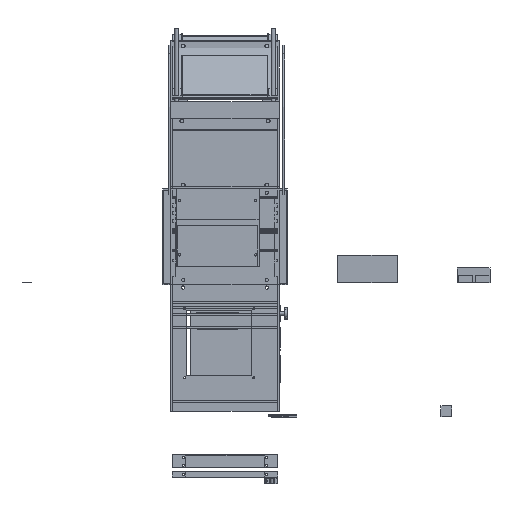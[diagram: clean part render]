
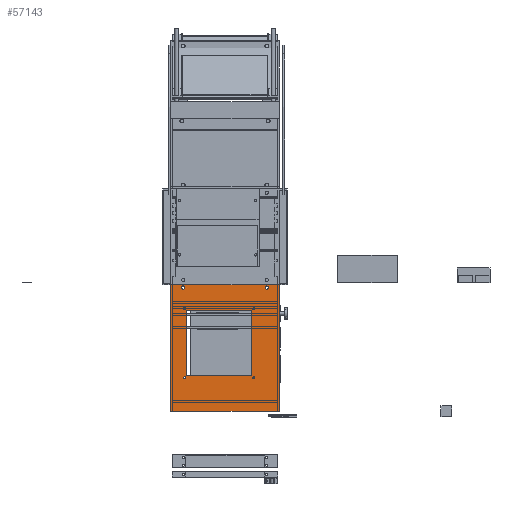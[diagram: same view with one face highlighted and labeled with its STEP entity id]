
A CAD part, left-side view. The second image highlights one B-rep face of the part: STEP entity #57143.
In plain terms, the highlighted planar face has unit normal (-1, 0, 0).
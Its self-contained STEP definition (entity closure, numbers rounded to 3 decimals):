
#56950=CARTESIAN_POINT('',(550.,0.,-236.));
#56951=DIRECTION('',(-1.,0.,0.));
#56952=DIRECTION('',(0.,0.,1.));
#56953=AXIS2_PLACEMENT_3D('',#56950,#56951,#56952);
#56954=PLANE('',#56953);
#56955=CARTESIAN_POINT('',(550.,283.,-12.));
#56956=VERTEX_POINT('',#56955);
#56957=CARTESIAN_POINT('',(550.,283.,-6.));
#56958=VERTEX_POINT('',#56957);
#56959=CARTESIAN_POINT('',(550.,283.,-9.));
#56960=DIRECTION('',(-1.,0.,0.));
#56961=DIRECTION('',(0.,0.,1.));
#56962=AXIS2_PLACEMENT_3D('',#56959,#56960,#56961);
#56963=CIRCLE('',#56962,3.);
#56964=EDGE_CURVE('',#56956,#56958,#56963,.T.);
#56965=ORIENTED_EDGE('',*,*,#56964,.F.);
#56966=CARTESIAN_POINT('',(550.,283.,-9.));
#56967=DIRECTION('',(-1.,0.,0.));
#56968=DIRECTION('',(0.,0.,1.));
#56969=AXIS2_PLACEMENT_3D('',#56966,#56967,#56968);
#56970=CIRCLE('',#56969,3.);
#56971=EDGE_CURVE('',#56958,#56956,#56970,.T.);
#56972=ORIENTED_EDGE('',*,*,#56971,.F.);
#56973=EDGE_LOOP('',(#56965,#56972));
#56974=FACE_BOUND('',#56973,.T.);
#56975=CARTESIAN_POINT('',(550.,130.,-12.));
#56976=VERTEX_POINT('',#56975);
#56977=CARTESIAN_POINT('',(550.,130.,-6.));
#56978=VERTEX_POINT('',#56977);
#56979=CARTESIAN_POINT('',(550.,130.,-9.));
#56980=DIRECTION('',(-1.,0.,0.));
#56981=DIRECTION('',(0.,0.,1.));
#56982=AXIS2_PLACEMENT_3D('',#56979,#56980,#56981);
#56983=CIRCLE('',#56982,3.);
#56984=EDGE_CURVE('',#56976,#56978,#56983,.T.);
#56985=ORIENTED_EDGE('',*,*,#56984,.F.);
#56986=CARTESIAN_POINT('',(550.,130.,-9.));
#56987=DIRECTION('',(-1.,0.,0.));
#56988=DIRECTION('',(0.,0.,1.));
#56989=AXIS2_PLACEMENT_3D('',#56986,#56987,#56988);
#56990=CIRCLE('',#56989,3.);
#56991=EDGE_CURVE('',#56978,#56976,#56990,.T.);
#56992=ORIENTED_EDGE('',*,*,#56991,.F.);
#56993=EDGE_LOOP('',(#56985,#56992));
#56994=FACE_BOUND('',#56993,.T.);
#56995=CARTESIAN_POINT('',(550.,280.536,-176.536));
#56996=VERTEX_POINT('',#56995);
#56997=CARTESIAN_POINT('',(550.,280.536,-172.536));
#56998=VERTEX_POINT('',#56997);
#56999=CARTESIAN_POINT('',(550.,280.536,-174.536));
#57000=DIRECTION('',(-1.,0.,0.));
#57001=DIRECTION('',(0.,0.,1.));
#57002=AXIS2_PLACEMENT_3D('',#56999,#57000,#57001);
#57003=CIRCLE('',#57002,2.);
#57004=EDGE_CURVE('',#56996,#56998,#57003,.T.);
#57005=ORIENTED_EDGE('',*,*,#57004,.F.);
#57006=CARTESIAN_POINT('',(550.,280.536,-174.536));
#57007=DIRECTION('',(-1.,0.,0.));
#57008=DIRECTION('',(0.,0.,1.));
#57009=AXIS2_PLACEMENT_3D('',#57006,#57007,#57008);
#57010=CIRCLE('',#57009,2.);
#57011=EDGE_CURVE('',#56998,#56996,#57010,.T.);
#57012=ORIENTED_EDGE('',*,*,#57011,.F.);
#57013=EDGE_LOOP('',(#57005,#57012));
#57014=FACE_BOUND('',#57013,.T.);
#57015=CARTESIAN_POINT('',(550.,153.464,-49.464));
#57016=VERTEX_POINT('',#57015);
#57017=CARTESIAN_POINT('',(550.,153.464,-45.464));
#57018=VERTEX_POINT('',#57017);
#57019=CARTESIAN_POINT('',(550.,153.464,-47.464));
#57020=DIRECTION('',(-1.,0.,0.));
#57021=DIRECTION('',(0.,0.,1.));
#57022=AXIS2_PLACEMENT_3D('',#57019,#57020,#57021);
#57023=CIRCLE('',#57022,2.);
#57024=EDGE_CURVE('',#57016,#57018,#57023,.T.);
#57025=ORIENTED_EDGE('',*,*,#57024,.F.);
#57026=CARTESIAN_POINT('',(550.,153.464,-47.464));
#57027=DIRECTION('',(-1.,0.,0.));
#57028=DIRECTION('',(0.,0.,1.));
#57029=AXIS2_PLACEMENT_3D('',#57026,#57027,#57028);
#57030=CIRCLE('',#57029,2.);
#57031=EDGE_CURVE('',#57018,#57016,#57030,.T.);
#57032=ORIENTED_EDGE('',*,*,#57031,.F.);
#57033=EDGE_LOOP('',(#57025,#57032));
#57034=FACE_BOUND('',#57033,.T.);
#57035=CARTESIAN_POINT('',(550.,280.536,-49.464));
#57036=VERTEX_POINT('',#57035);
#57037=CARTESIAN_POINT('',(550.,280.536,-45.464));
#57038=VERTEX_POINT('',#57037);
#57039=CARTESIAN_POINT('',(550.,280.536,-47.464));
#57040=DIRECTION('',(-1.,0.,0.));
#57041=DIRECTION('',(0.,0.,1.));
#57042=AXIS2_PLACEMENT_3D('',#57039,#57040,#57041);
#57043=CIRCLE('',#57042,2.);
#57044=EDGE_CURVE('',#57036,#57038,#57043,.T.);
#57045=ORIENTED_EDGE('',*,*,#57044,.F.);
#57046=CARTESIAN_POINT('',(550.,280.536,-47.464));
#57047=DIRECTION('',(-1.,0.,0.));
#57048=DIRECTION('',(0.,0.,1.));
#57049=AXIS2_PLACEMENT_3D('',#57046,#57047,#57048);
#57050=CIRCLE('',#57049,2.);
#57051=EDGE_CURVE('',#57038,#57036,#57050,.T.);
#57052=ORIENTED_EDGE('',*,*,#57051,.F.);
#57053=EDGE_LOOP('',(#57045,#57052));
#57054=FACE_BOUND('',#57053,.T.);
#57055=CARTESIAN_POINT('',(550.,153.464,-176.536));
#57056=VERTEX_POINT('',#57055);
#57057=CARTESIAN_POINT('',(550.,153.464,-172.536));
#57058=VERTEX_POINT('',#57057);
#57059=CARTESIAN_POINT('',(550.,153.464,-174.536));
#57060=DIRECTION('',(-1.,0.,0.));
#57061=DIRECTION('',(0.,0.,1.));
#57062=AXIS2_PLACEMENT_3D('',#57059,#57060,#57061);
#57063=CIRCLE('',#57062,2.);
#57064=EDGE_CURVE('',#57056,#57058,#57063,.T.);
#57065=ORIENTED_EDGE('',*,*,#57064,.F.);
#57066=CARTESIAN_POINT('',(550.,153.464,-174.536));
#57067=DIRECTION('',(-1.,0.,0.));
#57068=DIRECTION('',(0.,0.,1.));
#57069=AXIS2_PLACEMENT_3D('',#57066,#57067,#57068);
#57070=CIRCLE('',#57069,2.);
#57071=EDGE_CURVE('',#57058,#57056,#57070,.T.);
#57072=ORIENTED_EDGE('',*,*,#57071,.F.);
#57073=EDGE_LOOP('',(#57065,#57072));
#57074=FACE_BOUND('',#57073,.T.);
#57075=CARTESIAN_POINT('',(550.,277.,-51.));
#57076=VERTEX_POINT('',#57075);
#57077=CARTESIAN_POINT('',(550.,277.,-171.));
#57078=VERTEX_POINT('',#57077);
#57079=CARTESIAN_POINT('',(550.,277.,-51.));
#57080=DIRECTION('',(0.,0.,-1.));
#57081=VECTOR('',#57080,120.);
#57082=LINE('',#57079,#57081);
#57083=EDGE_CURVE('',#57076,#57078,#57082,.T.);
#57084=ORIENTED_EDGE('',*,*,#57083,.F.);
#57085=CARTESIAN_POINT('',(550.,157.,-51.));
#57086=VERTEX_POINT('',#57085);
#57087=CARTESIAN_POINT('',(550.,157.,-51.));
#57088=DIRECTION('',(0.,1.,0.));
#57089=VECTOR('',#57088,120.);
#57090=LINE('',#57087,#57089);
#57091=EDGE_CURVE('',#57086,#57076,#57090,.T.);
#57092=ORIENTED_EDGE('',*,*,#57091,.F.);
#57093=CARTESIAN_POINT('',(550.,157.,-171.));
#57094=VERTEX_POINT('',#57093);
#57095=CARTESIAN_POINT('',(550.,157.,-171.));
#57096=DIRECTION('',(0.,-0.,1.));
#57097=VECTOR('',#57096,120.);
#57098=LINE('',#57095,#57097);
#57099=EDGE_CURVE('',#57094,#57086,#57098,.T.);
#57100=ORIENTED_EDGE('',*,*,#57099,.F.);
#57101=CARTESIAN_POINT('',(550.,277.,-171.));
#57102=DIRECTION('',(0.,-1.,0.));
#57103=VECTOR('',#57102,120.);
#57104=LINE('',#57101,#57103);
#57105=EDGE_CURVE('',#57078,#57094,#57104,.T.);
#57106=ORIENTED_EDGE('',*,*,#57105,.F.);
#57107=EDGE_LOOP('',(#57084,#57092,#57100,#57106));
#57108=FACE_BOUND('',#57107,.T.);
#57109=CARTESIAN_POINT('',(550.,306.,-4.));
#57110=VERTEX_POINT('',#57109);
#57111=CARTESIAN_POINT('',(550.,107.,-4.));
#57112=VERTEX_POINT('',#57111);
#57113=CARTESIAN_POINT('',(550.,306.,-4.));
#57114=DIRECTION('',(0.,-1.,0.));
#57115=VECTOR('',#57114,199.);
#57116=LINE('',#57113,#57115);
#57117=EDGE_CURVE('',#57110,#57112,#57116,.T.);
#57118=ORIENTED_EDGE('',*,*,#57117,.F.);
#57119=CARTESIAN_POINT('',(550.,306.,-236.));
#57120=VERTEX_POINT('',#57119);
#57121=CARTESIAN_POINT('',(550.,306.,-236.));
#57122=DIRECTION('',(0.,0.,1.));
#57123=VECTOR('',#57122,232.);
#57124=LINE('',#57121,#57123);
#57125=EDGE_CURVE('',#57120,#57110,#57124,.T.);
#57126=ORIENTED_EDGE('',*,*,#57125,.F.);
#57127=CARTESIAN_POINT('',(550.,107.,-236.));
#57128=VERTEX_POINT('',#57127);
#57129=CARTESIAN_POINT('',(550.,306.,-236.));
#57130=DIRECTION('',(0.,-1.,0.));
#57131=VECTOR('',#57130,199.);
#57132=LINE('',#57129,#57131);
#57133=EDGE_CURVE('',#57120,#57128,#57132,.T.);
#57134=ORIENTED_EDGE('',*,*,#57133,.T.);
#57135=CARTESIAN_POINT('',(550.,107.,-236.));
#57136=DIRECTION('',(0.,0.,1.));
#57137=VECTOR('',#57136,232.);
#57138=LINE('',#57135,#57137);
#57139=EDGE_CURVE('',#57128,#57112,#57138,.T.);
#57140=ORIENTED_EDGE('',*,*,#57139,.T.);
#57141=EDGE_LOOP('',(#57118,#57126,#57134,#57140));
#57142=FACE_BOUND('',#57141,.T.);
#57143=ADVANCED_FACE('',(#56974,#56994,#57014,#57034,#57054,#57074,#57108,#57142),#56954,.T.);
